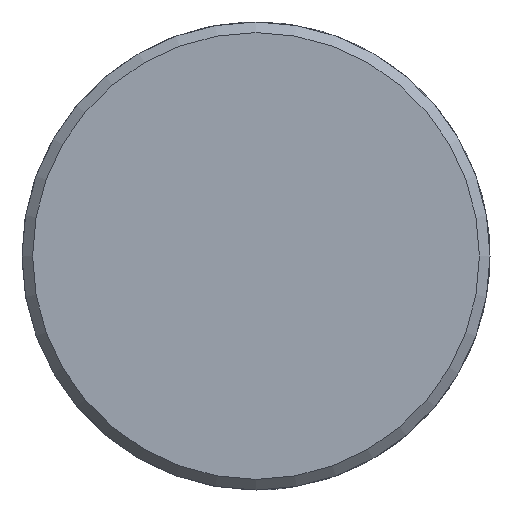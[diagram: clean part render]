
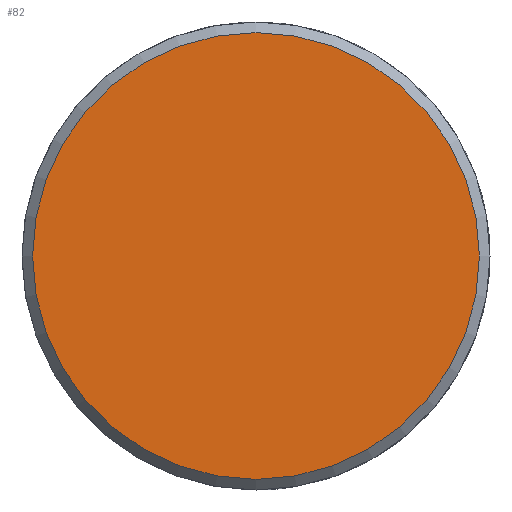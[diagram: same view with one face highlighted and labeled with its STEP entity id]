
A CAD part, front view. The second image highlights one B-rep face of the part: STEP entity #82.
In plain terms, the highlighted planar face has unit normal (0, -1, 0).
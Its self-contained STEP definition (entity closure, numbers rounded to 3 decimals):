
#82 = ADVANCED_FACE( '', ( #108 ), #109, .F. );
#108 = FACE_OUTER_BOUND( '', #141, .T. );
#109 = PLANE( '', #142 );
#141 = EDGE_LOOP( '', ( #216 ) );
#142 = AXIS2_PLACEMENT_3D( '', #217, #218, #219 );
#216 = ORIENTED_EDGE( '', *, *, #295, .T. );
#217 = CARTESIAN_POINT( '', ( 10.5, 0., 0. ) );
#218 = DIRECTION( '', ( 0., 1., 0. ) );
#219 = DIRECTION( '', ( 0., 0., 1. ) );
#295 = EDGE_CURVE( '', #349, #349, #350, .T. );
#349 = VERTEX_POINT( '', #505 );
#350 = CIRCLE( '', #506, 10.5 );
#505 = CARTESIAN_POINT( '', ( 0., 0., -10.5 ) );
#506 = AXIS2_PLACEMENT_3D( '', #570, #571, #572 );
#570 = CARTESIAN_POINT( '', ( 0., 0., 0. ) );
#571 = DIRECTION( '', ( 0., -1., 0. ) );
#572 = DIRECTION( '', ( 0., 0., -1. ) );
